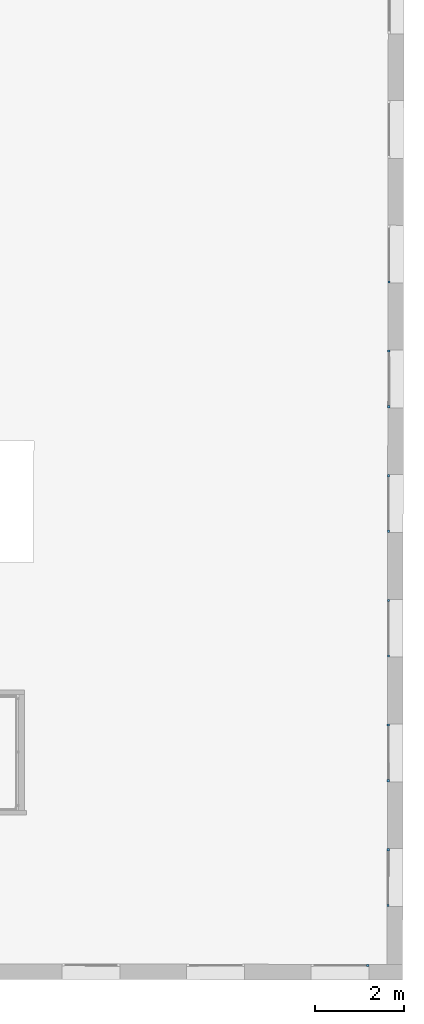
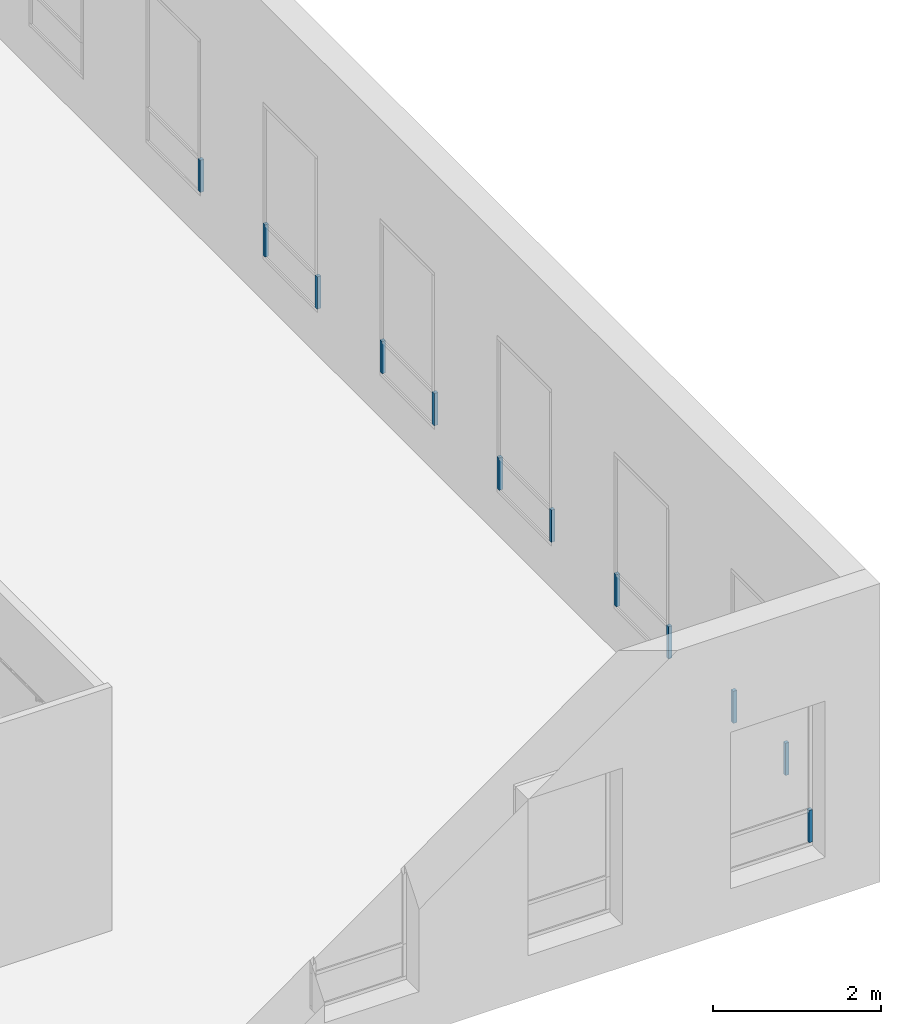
# One storey, part 21 of 35: 12 members, 7 elements without a shape of their own.
"""IFC2X3 building model written with IfcOpenShell, lengths in metres."""

from ifc_helpers import new_model, entity, si_unit, converted_unit, derived_unit, direction, frame, origin, origin_2d_with_axis, place, context, subcontext, project, spatial, rectangle, extrude, source, transform, mapped, material, type_object, type_shapes, element, aggregate, save


model = new_model("IFC2X3")

# Units and contexts
model_context = context("Model", 3, precision=1e-05, world=origin(), true_north=direction((6.123233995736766e-17, 1.0)))
body_context = subcontext(model_context, "Body", "Model", "MODEL_VIEW")
ifc_project = project(units=[si_unit("LENGTHUNIT", "METRE"), si_unit("AREAUNIT", "SQUARE_METRE"), converted_unit("PLANEANGLEUNIT", "DEGREE", entity("IfcPlaneAngleMeasure", 0.017453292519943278), si_unit("PLANEANGLEUNIT", "RADIAN"), dimensions=[0, 0, 0, 0, 0, 0, 0]), derived_unit("THERMALTRANSMITTANCEUNIT", [(si_unit("MASSUNIT", "GRAM", prefix="KILO"), 1), (si_unit("THERMODYNAMICTEMPERATUREUNIT", "KELVIN"), -1), (si_unit("TIMEUNIT", "SECOND"), -3)])], contexts=[model_context])

# Site, building, storey
site_placement = place(None, frame((1253.6752467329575, 2072.143113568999, 91.49999999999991), z_axis=(0.0, 0.0, 1.0), x_axis=(0.7237211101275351, 0.6900925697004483, 0.0)))
site = spatial("IfcSite", under=ifc_project, at=site_placement, Name="Surface", CompositionType="ELEMENT")
building_placement = place(site_placement, origin())
building = spatial("IfcBuilding", under=site, at=building_placement, CompositionType="ELEMENT")
storey_placement = place(building_placement, frame((0.0, 0.0, 3.549999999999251)))
storey = spatial("IfcBuildingStorey", under=building, at=storey_placement, Name="1-R+1", CompositionType="ELEMENT", Elevation=3.549999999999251)

# Curtain wall, member
curtain_wall_type = type_object("IfcCurtainWallType", Name="Mur-rideau:Menuiserie Ext 1F+1OB VERTIC", PredefinedType="NOTDEFINED")
curtain_wall_1_placement = place(storey_placement, frame((0.0, 0.0, -3.549999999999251)))
curtain_wall_1 = element("IfcCurtainWall", 1, at=curtain_wall_1_placement, inside=storey, type_object=curtain_wall_type, Name="Mur-rideau:Menuiserie Ext 1F+1OB VERTIC", ObjectType="Mur-rideau:Menuiserie Ext 1F+1OB VERTIC")
ifc_material = material(Name="OMD_Aluminium Men Ext")
member_type_1 = type_object("IfcMemberType", Name="Meneau rectangulaire:50x50", PredefinedType="MULLION", material=ifc_material)
shared_shape_1 = source(origin(), body_context, "Body", "SweptSolid", [
    extrude(rectangle(XDim=0.05, YDim=0.049999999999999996, at=origin_2d_with_axis()), frame((-0.025, 0.0, -0.4699999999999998), z_axis=(0.0, 0.0, 1.0), x_axis=(-1.0, 0.0, 0.0)), (0.0, 0.0, 1.0), 0.4699999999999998),
])
type_shapes(member_type_1, [shared_shape_1])
member_1_placement = place(curtain_wall_1_placement, frame((188.84198091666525, -19.273710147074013, 4.219999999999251), z_axis=(0.0, 0.0, -1.0), x_axis=(0.6909838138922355, 0.7228702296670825, 0.0)))
member_1 = element("IfcMember", 2, at=member_1_placement, type_object=member_type_1, material=ifc_material, Name="Meneau rectangulaire:50x50", ObjectType="Meneau rectangulaire:50x50", context=body_context, shape_type="MappedRepresentation", body=[
    mapped(shared_shape_1, transform((0.0, 0.0, 0.0), scale=1.0)),
])

curtain_wall_2_placement = place(storey_placement, frame((0.0, 0.0, -3.549999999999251)))
curtain_wall_2 = element("IfcCurtainWall", 3, at=curtain_wall_2_placement, inside=storey, type_object=curtain_wall_type, Name="Mur-rideau:Menuiserie Ext 1F+1OB VERTIC", ObjectType="Mur-rideau:Menuiserie Ext 1F+1OB VERTIC")
member_2_placement = place(curtain_wall_2_placement, frame((186.90722623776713, -21.29774679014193, 4.219999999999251), z_axis=(0.0, 0.0, -1.0), x_axis=(0.6909838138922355, 0.7228702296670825, 0.0)))
member_2 = element("IfcMember", 4, at=member_2_placement, type_object=member_type_1, material=ifc_material, Name="Meneau rectangulaire:50x50", ObjectType="Meneau rectangulaire:50x50", context=body_context, shape_type="MappedRepresentation", body=[
    mapped(shared_shape_1, transform((0.0, 0.0, 0.0), scale=1.0)),
])

curtain_wall_3_placement = place(storey_placement, frame((0.0, 0.0, -3.549999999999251)))
curtain_wall_3 = element("IfcCurtainWall", 5, at=curtain_wall_3_placement, inside=storey, type_object=curtain_wall_type, Name="Mur-rideau:Menuiserie Ext 1F+1OB VERTIC", ObjectType="Mur-rideau:Menuiserie Ext 1F+1OB VERTIC")
member_3_placement = place(curtain_wall_3_placement, frame((184.9724715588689, -23.32178343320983, 4.219999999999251), z_axis=(0.0, 0.0, -1.0), x_axis=(0.6909838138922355, 0.7228702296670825, 0.0)))
member_3 = element("IfcMember", 6, at=member_3_placement, type_object=member_type_1, material=ifc_material, Name="Meneau rectangulaire:50x50", ObjectType="Meneau rectangulaire:50x50", context=body_context, shape_type="MappedRepresentation", body=[
    mapped(shared_shape_1, transform((0.0, 0.0, 0.0), scale=1.0)),
])

curtain_wall_4_placement = place(storey_placement, frame((0.0, 0.0, -3.549999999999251)))
curtain_wall_4 = element("IfcCurtainWall", 7, at=curtain_wall_4_placement, inside=storey, type_object=curtain_wall_type, Name="Mur-rideau:Menuiserie Ext 1F+1OB VERTIC", ObjectType="Mur-rideau:Menuiserie Ext 1F+1OB VERTIC")
member_4_placement = place(curtain_wall_4_placement, frame((183.03771687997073, -25.34582007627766, 4.219999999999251), z_axis=(0.0, 0.0, -1.0), x_axis=(0.6909838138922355, 0.7228702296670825, 0.0)))
member_4 = element("IfcMember", 8, at=member_4_placement, type_object=member_type_1, material=ifc_material, Name="Meneau rectangulaire:50x50", ObjectType="Meneau rectangulaire:50x50", context=body_context, shape_type="MappedRepresentation", body=[
    mapped(shared_shape_1, transform((0.0, 0.0, 0.0), scale=1.0)),
])

curtain_wall_5_placement = place(storey_placement, frame((0.0, 0.0, -3.549999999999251)))
curtain_wall_5 = element("IfcCurtainWall", 9, at=curtain_wall_5_placement, inside=storey, type_object=curtain_wall_type, Name="Mur-rideau:Menuiserie Ext 1F+1OB VERTIC", ObjectType="Mur-rideau:Menuiserie Ext 1F+1OB VERTIC")
member_5_placement = place(curtain_wall_5_placement, frame((181.1029622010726, -27.36985671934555, 4.219999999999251), z_axis=(0.0, 0.0, -1.0), x_axis=(0.6909838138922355, 0.7228702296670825, 0.0)))
member_5 = element("IfcMember", 10, at=member_5_placement, type_object=member_type_1, material=ifc_material, Name="Meneau rectangulaire:50x50", ObjectType="Meneau rectangulaire:50x50", context=body_context, shape_type="MappedRepresentation", body=[
    mapped(shared_shape_1, transform((0.0, 0.0, 0.0), scale=1.0)),
])

curtain_wall_6_placement = place(storey_placement, frame((0.0, 0.0, -3.549999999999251)))
curtain_wall_6 = element("IfcCurtainWall", 11, at=curtain_wall_6_placement, inside=storey, type_object=curtain_wall_type, Name="Mur-rideau:Menuiserie Ext 1F+1OB VERTIC", ObjectType="Mur-rideau:Menuiserie Ext 1F+1OB VERTIC")
member_type_2 = type_object("IfcMemberType", Name="Meneau rectangulaire:50x50", PredefinedType="MULLION", material=ifc_material)
shared_shape_2 = source(origin(), body_context, "Body", "SweptSolid", [
    extrude(rectangle(XDim=0.05, YDim=0.049999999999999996, at=origin_2d_with_axis()), frame((-0.025, 0.0, -0.4699999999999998), z_axis=(0.0, 0.0, 1.0), x_axis=(-1.0, 0.0, 0.0)), (0.0, 0.0, 1.0), 0.4699999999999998),
])
type_shapes(member_type_2, [shared_shape_2])
member_6_placement = place(curtain_wall_6_placement, frame((189.87866676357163, -18.189184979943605, 4.689999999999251), z_axis=(0.0, 0.0, 1.0), x_axis=(-0.6909838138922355, -0.7228702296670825, 0.0)))
member_6 = element("IfcMember", 12, at=member_6_placement, type_object=member_type_2, material=ifc_material, Name="Meneau rectangulaire:50x50", ObjectType="Meneau rectangulaire:50x50", context=body_context, shape_type="MappedRepresentation", body=[
    mapped(shared_shape_2, transform((0.0, 0.0, 0.0), scale=1.0)),
])
aggregate(curtain_wall_6, [member_6])

# Member
member_7_placement = place(curtain_wall_1_placement, frame((187.9439120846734, -20.213221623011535, 4.689999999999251), z_axis=(0.0, 0.0, 1.0), x_axis=(-0.6909838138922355, -0.7228702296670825, 0.0)))
member_7 = element("IfcMember", 13, at=member_7_placement, type_object=member_type_2, material=ifc_material, Name="Meneau rectangulaire:50x50", ObjectType="Meneau rectangulaire:50x50", context=body_context, shape_type="MappedRepresentation", body=[
    mapped(shared_shape_2, transform((0.0, 0.0, 0.0), scale=1.0)),
])

aggregate(curtain_wall_1, [member_1, member_7])

member_8_placement = place(curtain_wall_2_placement, frame((186.00915740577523, -22.237258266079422, 4.689999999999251), z_axis=(0.0, 0.0, 1.0), x_axis=(-0.6909838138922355, -0.7228702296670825, 0.0)))
member_8 = element("IfcMember", 14, at=member_8_placement, type_object=member_type_2, material=ifc_material, Name="Meneau rectangulaire:50x50", ObjectType="Meneau rectangulaire:50x50", context=body_context, shape_type="MappedRepresentation", body=[
    mapped(shared_shape_2, transform((0.0, 0.0, 0.0), scale=1.0)),
])

aggregate(curtain_wall_2, [member_2, member_8])

member_9_placement = place(curtain_wall_3_placement, frame((184.074402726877, -24.26129490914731, 4.689999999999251), z_axis=(0.0, 0.0, 1.0), x_axis=(-0.6909838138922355, -0.7228702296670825, 0.0)))
member_9 = element("IfcMember", 15, at=member_9_placement, type_object=member_type_2, material=ifc_material, Name="Meneau rectangulaire:50x50", ObjectType="Meneau rectangulaire:50x50", context=body_context, shape_type="MappedRepresentation", body=[
    mapped(shared_shape_2, transform((0.0, 0.0, 0.0), scale=1.0)),
])

aggregate(curtain_wall_3, [member_3, member_9])

member_10_placement = place(curtain_wall_4_placement, frame((182.13964804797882, -26.28533155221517, 4.689999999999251), z_axis=(0.0, 0.0, 1.0), x_axis=(-0.6909838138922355, -0.7228702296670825, 0.0)))
member_10 = element("IfcMember", 16, at=member_10_placement, type_object=member_type_2, material=ifc_material, Name="Meneau rectangulaire:50x50", ObjectType="Meneau rectangulaire:50x50", context=body_context, shape_type="MappedRepresentation", body=[
    mapped(shared_shape_2, transform((0.0, 0.0, 0.0), scale=1.0)),
])

aggregate(curtain_wall_4, [member_4, member_10])

member_11_placement = place(curtain_wall_5_placement, frame((180.2048933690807, -28.309368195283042, 4.689999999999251), z_axis=(0.0, 0.0, 1.0), x_axis=(-0.6909838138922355, -0.7228702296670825, 0.0)))
member_11 = element("IfcMember", 17, at=member_11_placement, type_object=member_type_2, material=ifc_material, Name="Meneau rectangulaire:50x50", ObjectType="Meneau rectangulaire:50x50", context=body_context, shape_type="MappedRepresentation", body=[
    mapped(shared_shape_2, transform((0.0, 0.0, 0.0), scale=1.0)),
])

aggregate(curtain_wall_5, [member_5, member_11])

# Curtain wall, member
curtain_wall_7_placement = place(storey_placement, frame((0.0, 0.0, -3.549999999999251)))
curtain_wall_7 = element("IfcCurtainWall", 18, at=curtain_wall_7_placement, inside=storey, type_object=curtain_wall_type, Name="Mur-rideau:Menuiserie Ext 1F+1OB VERTIC", ObjectType="Mur-rideau:Menuiserie Ext 1F+1OB VERTIC")
member_12_placement = place(curtain_wall_7_placement, frame((178.97891988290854, -28.970864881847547, 4.689999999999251), z_axis=(0.0, 0.0, 1.0), x_axis=(0.7228702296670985, -0.6909838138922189, 0.0)))
member_12 = element("IfcMember", 19, at=member_12_placement, type_object=member_type_2, material=ifc_material, Name="Meneau rectangulaire:50x50", ObjectType="Meneau rectangulaire:50x50", context=body_context, shape_type="MappedRepresentation", body=[
    mapped(shared_shape_2, transform((0.0, 0.0, 0.0), scale=1.0)),
])
aggregate(curtain_wall_7, [member_12])

save(model, "model.ifc")
